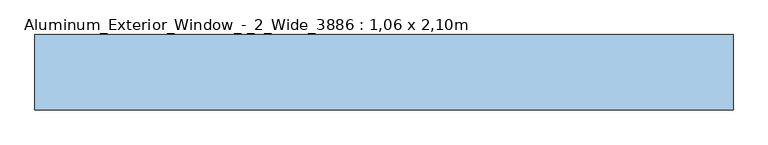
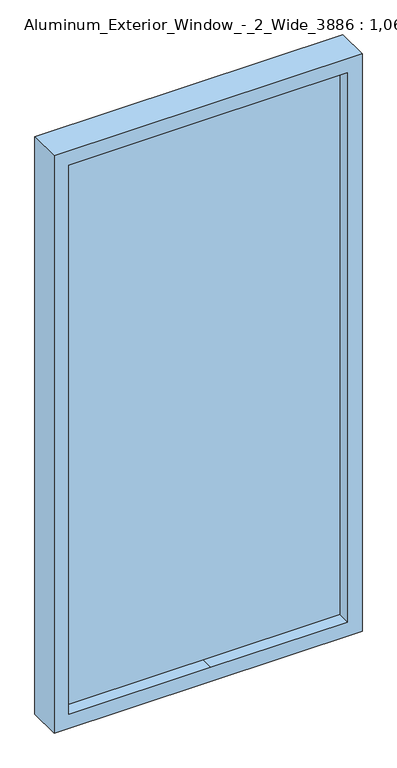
"""IFC4 building model written with IfcOpenShell, lengths in millimetres: window geometry, Aluminum_Exterior_Window_-_2_Wide_3886 : 1,06 x 2,10m."""

from ifc_helpers import new_model, si_unit, frame, origin, place, context, project, spatial, polyline, outline, extrude, source, transform, mapped, element, save


def aluminum_exterior_window_2_wide_3886_1_06_x_2_10m_65eb9463(model_context):
    return source(origin(), model_context, "Body", "SweptSolid", [
        extrude(outline(polyline([(3116.0, -1371.6), (1016.0, -1371.6), (1016.0, -311.6), (3116.0, -311.6), (3116.0, -1371.6)]), holes=[polyline([(3065.2, -867.0), (3065.2, -362.4), (1066.8, -362.4), (1066.8, -833.8808837), (1066.8, -1320.8), (3065.2, -1320.8), (3065.2, -867.0)])]), frame((0.0, -38.1424754, 0.0), z_axis=(0.0, 1.0, 0.0), x_axis=(0.0, 0.0, 1.0)), (0.0, 0.0, 1.0), 114.3),
        extrude(outline(polyline([(3065.2, -867.0), (3065.2, -1320.8), (1066.8, -1320.8), (1066.8, -840.891469), (1066.8, -362.4), (3065.2, -362.4), (3065.2, -867.0)])), frame((0.0, 6.3075246, 0.0), z_axis=(0.0, 1.0, 0.0), x_axis=(0.0, 0.0, 1.0)), (0.0, 0.0, 1.0), 25.4),
    ])


if __name__ == "__main__":
    model = new_model("IFC4")
    model_context = context("Model", 3, world=origin())
    ifc_project = project(units=[si_unit("LENGTHUNIT", "METRE", prefix="MILLI")], contexts=[model_context])
    site = spatial("IfcSite", under=ifc_project)
    building = spatial("IfcBuilding", under=site)
    placement = place(None, origin())
    aluminum_exterior_window_2_wide_3886_1_06_x_2_10m_shape = aluminum_exterior_window_2_wide_3886_1_06_x_2_10m_65eb9463(model_context)
    element("IfcWindow", 1, ObjectType="Aluminum_Exterior_Window_-_2_Wide_3886 : 1,06 x 2,10m", at=placement, inside=building, context=model_context, shape_type="MappedRepresentation", body=[
        mapped(aluminum_exterior_window_2_wide_3886_1_06_x_2_10m_shape, transform((0.0, 0.0, 0.0), x_axis=(1.0, 0.0, 0.0), y_axis=(0.0, 1.0, 0.0), z_axis=(0.0, 0.0, 1.0))),
    ])
    save(model, "model.ifc")
